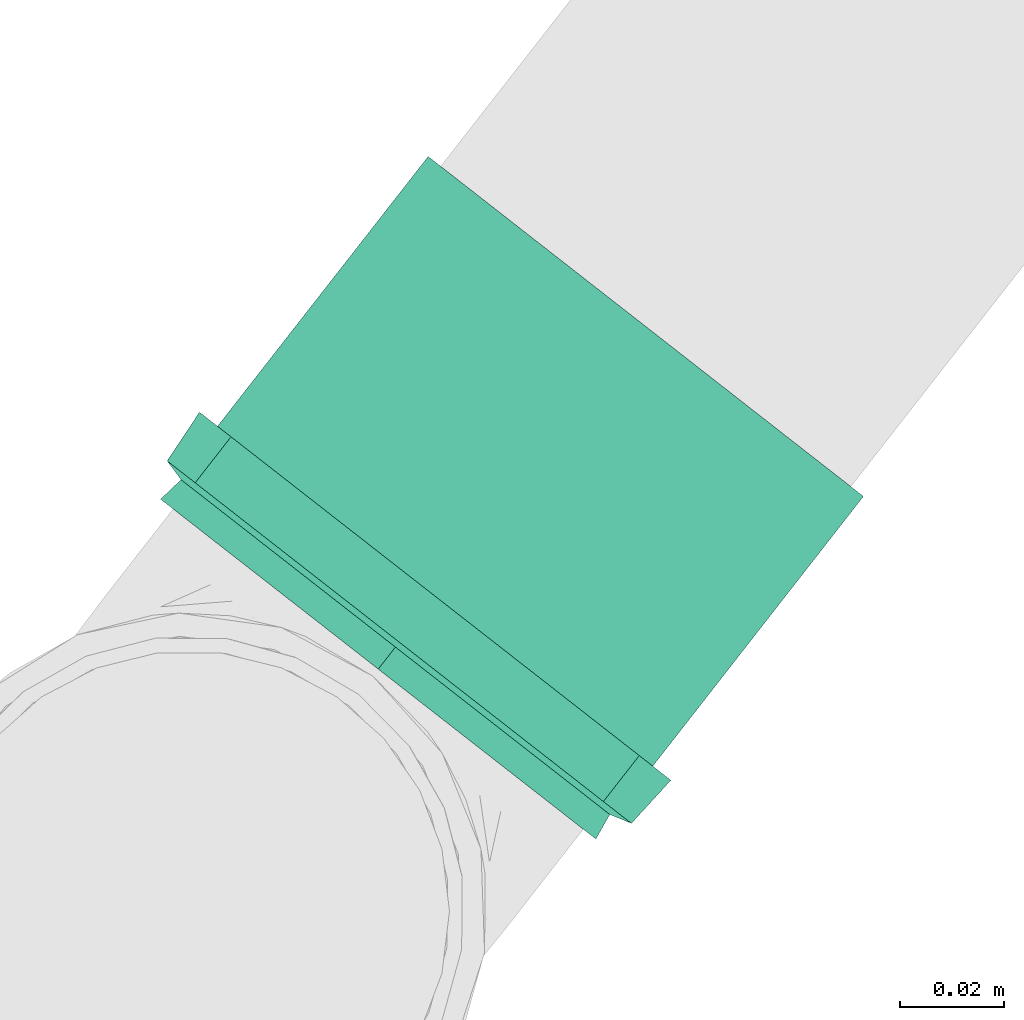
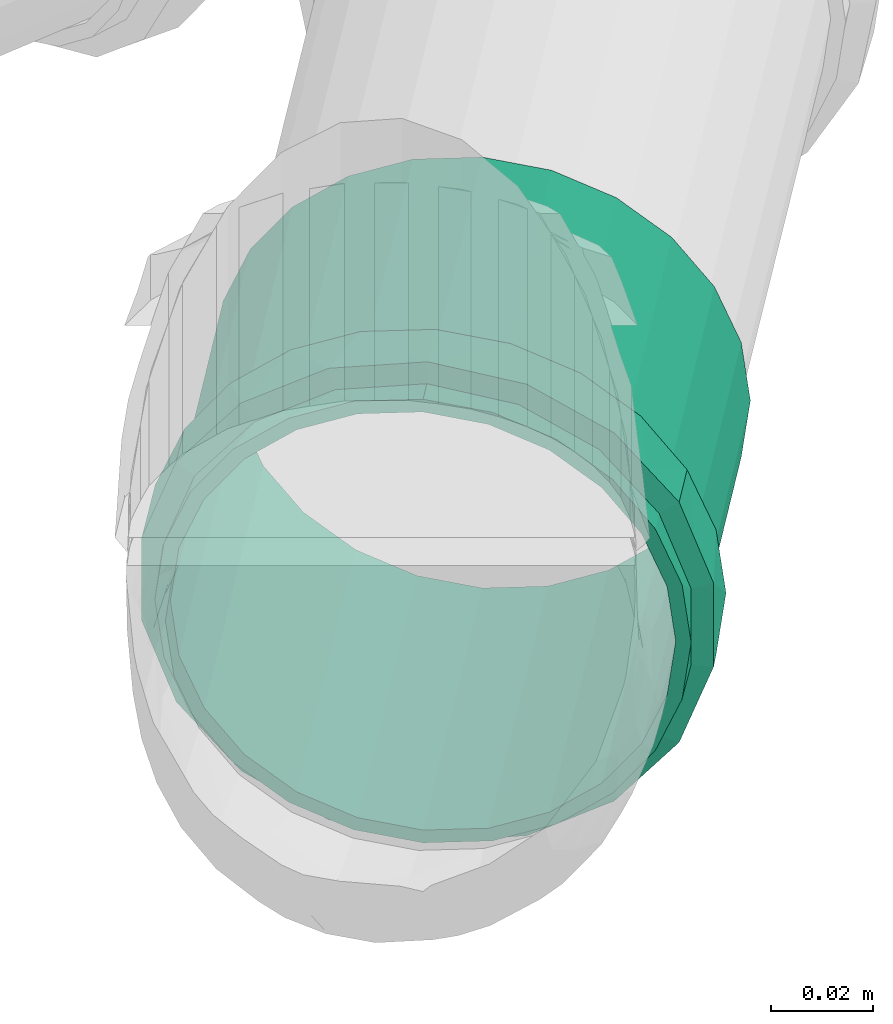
# One storey, part 19 of 97: 1 flow fitting.
"""IFC2X3 building model written with IfcOpenShell, lengths in centimetres."""

from ifc_helpers import new_model, entity, si_unit, converted_unit, derived_unit, direction, frame, origin, place, context, subcontext, project, spatial, faceted_brep, source, transform, mapped, material, type_object, type_shapes, element, save


model = new_model("IFC2X3")

# Units and contexts
model_context = context("Model", 3, precision=0.001, world=origin(), true_north=direction((6.12303176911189e-17, 1.0)))
body_context = subcontext(model_context, "Body", "Model", "MODEL_VIEW")
ifc_project = project(units=[si_unit("LENGTHUNIT", "METRE", prefix="CENTI"), si_unit("AREAUNIT", "SQUARE_METRE"), si_unit("VOLUMEUNIT", "CUBIC_METRE"), converted_unit("PLANEANGLEUNIT", "DEGREE", entity("IfcRatioMeasure", 0.0174532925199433), si_unit("PLANEANGLEUNIT", "RADIAN"), dimensions=[0, 0, 0, 0, 0, 0, 0]), si_unit("MASSUNIT", "GRAM", prefix="KILO"), derived_unit("MASSDENSITYUNIT", [(si_unit("MASSUNIT", "GRAM", prefix="KILO"), 1), (si_unit("LENGTHUNIT", "METRE"), -3)]), derived_unit("MOMENTOFINERTIAUNIT", [(si_unit("LENGTHUNIT", "METRE"), 4)]), si_unit("TIMEUNIT", "SECOND"), si_unit("FREQUENCYUNIT", "HERTZ"), si_unit("THERMODYNAMICTEMPERATUREUNIT", "DEGREE_CELSIUS"), derived_unit("THERMALTRANSMITTANCEUNIT", [(si_unit("MASSUNIT", "GRAM", prefix="KILO"), 1), (si_unit("THERMODYNAMICTEMPERATUREUNIT", "KELVIN"), -1), (si_unit("TIMEUNIT", "SECOND"), -3)]), derived_unit("VOLUMETRICFLOWRATEUNIT", [(si_unit("LENGTHUNIT", "METRE"), 3), (si_unit("TIMEUNIT", "SECOND"), -1)]), si_unit("ELECTRICCURRENTUNIT", "AMPERE"), si_unit("ELECTRICVOLTAGEUNIT", "VOLT"), si_unit("POWERUNIT", "WATT"), si_unit("FORCEUNIT", "NEWTON", prefix="KILO"), si_unit("ILLUMINANCEUNIT", "LUX"), si_unit("LUMINOUSFLUXUNIT", "LUMEN"), si_unit("LUMINOUSINTENSITYUNIT", "CANDELA"), derived_unit("USERDEFINED", [(si_unit("MASSUNIT", "GRAM", prefix="KILO"), -1), (si_unit("LENGTHUNIT", "METRE"), -2), (si_unit("TIMEUNIT", "SECOND"), 3), (si_unit("LUMINOUSFLUXUNIT", "LUMEN"), 1)]), derived_unit("LINEARVELOCITYUNIT", [(si_unit("LENGTHUNIT", "METRE"), 1), (si_unit("TIMEUNIT", "SECOND"), -1)]), si_unit("PRESSUREUNIT", "PASCAL"), derived_unit("USERDEFINED", [(si_unit("LENGTHUNIT", "METRE"), -2), (si_unit("MASSUNIT", "GRAM", prefix="KILO"), 1), (si_unit("TIMEUNIT", "SECOND"), -2)]), derived_unit("LINEARFORCEUNIT", [(si_unit("MASSUNIT", "GRAM", prefix="KILO"), 1), (si_unit("LENGTHUNIT", "METRE"), 1), (si_unit("TIMEUNIT", "SECOND"), -2), (si_unit("LENGTHUNIT", "METRE"), -1)]), derived_unit("PLANARFORCEUNIT", [(si_unit("MASSUNIT", "GRAM", prefix="KILO"), 1), (si_unit("LENGTHUNIT", "METRE"), 1), (si_unit("TIMEUNIT", "SECOND"), -2), (si_unit("LENGTHUNIT", "METRE"), -2)])], contexts=[model_context])

# Site, building, storey
site_placement = place(None, origin())
site = spatial("IfcSite", under=ifc_project, at=site_placement, Name="Default", CompositionType="ELEMENT")
building_placement = place(site_placement, origin())
building = spatial("IfcBuilding", under=site, at=building_placement, Name="HIDROSSANITÁRIO", CompositionType="ELEMENT")
storey_placement = place(building_placement, frame((0.0, 0.0, -260.0)))
storey = spatial("IfcBuildingStorey", under=building, at=storey_placement, Name="TÉRREO-HID", CompositionType="ELEMENT", Elevation=-260.0)

# Flow fitting
ifc_material = material(Name="PVC Branco")
pipe_fitting_type = type_object("IfcPipeFittingType", Name="Luva Simples para Conexão - Serie Normal - Esgoto - MEP - Tigre:Standard", PredefinedType="NOTDEFINED", material=ifc_material)
shared_shape = source(origin(), body_context, "Body", "Brep", [
    faceted_brep([(1.77700000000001, 2.8725, -4.9753159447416), (1.77700000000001, 4.06232845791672, -4.06232845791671), (1.77700000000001, 2.65249999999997, -4.59426476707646), (1.77700000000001, 1.37303503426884, -5.12423650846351), (1.77700000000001, 1.48691541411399, -5.5492438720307), (1.77700000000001, 3.75120147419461, -3.75120147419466), (1.77700000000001, 4.9753159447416, -2.8725), (1.77700000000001, 4.59426476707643, -2.65250000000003), (1.77700000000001, 5.1242365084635, -1.37303503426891), (1.77700000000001, 5.5492438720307, -1.48691541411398), (1.77700000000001, 5.305, 0.0), (1.77700000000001, 5.745, 0.0), (1.77700000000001, 5.1242365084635, 1.3730350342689), (1.77700000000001, 5.54924387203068, 1.48691541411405), (1.77700000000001, 4.59426476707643, 2.65250000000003), (1.77700000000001, 4.97531594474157, 2.87250000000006), (1.77700000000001, 3.75120147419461, 3.75120147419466), (1.77700000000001, 4.06232845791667, 4.06232845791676), (1.77700000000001, 2.65249999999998, 4.59426476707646), (1.77700000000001, 2.87249999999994, 4.97531594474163), (1.77700000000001, 1.37303503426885, 5.12423650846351), (1.77700000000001, 1.48691541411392, 5.54924387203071), (1.77700000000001, 0.0, 5.305), (1.77700000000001, 0.0, 5.745), (1.77700000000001, -1.37303503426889, 5.1242365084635), (1.77700000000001, -1.48691541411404, 5.54924387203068), (1.77700000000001, -2.65250000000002, 4.59426476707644), (1.77700000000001, -2.87250000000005, 4.97531594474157), (1.77700000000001, -3.75120147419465, 3.75120147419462), (1.77700000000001, -4.06232845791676, 4.06232845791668), (1.77700000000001, -4.59426476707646, 2.65249999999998), (1.77700000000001, -4.97531594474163, 2.87249999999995), (1.77700000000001, -5.54924387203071, 1.48691541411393), (1.77700000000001, -5.12423650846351, 1.37303503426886), (1.77700000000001, -5.745, 0.0), (1.77700000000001, -5.305, 0.0), (1.77700000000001, -5.54924387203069, -1.486915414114), (1.77700000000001, -5.12423650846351, -1.37303503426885), (1.77700000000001, -4.97531594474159, -2.87250000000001), (1.77700000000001, -4.59426476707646, -2.65249999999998), (1.77700000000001, -4.06232845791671, -4.06232845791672), (1.77700000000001, -3.75120147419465, -3.75120147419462), (1.77700000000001, -2.87249999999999, -4.97531594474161), (1.77700000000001, -2.65250000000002, -4.59426476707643), (1.77700000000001, -1.48691541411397, -5.5492438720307), (1.77700000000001, -1.3730350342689, -5.1242365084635), (1.77700000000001, 0.0, -5.745), (1.77700000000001, 0.0, -5.305), (0.657000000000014, -1.93463887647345, 5.31665771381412), (0.657000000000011, -4.4007619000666, 3.69300957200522), (0.657000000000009, -4.89962626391, 2.82901737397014), (0.657000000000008, -5.39849062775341, 1.96502517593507), (0.657000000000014, -2.87216972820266, 4.97550661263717), (0.657000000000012, -3.63646581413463, 4.3342580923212), (0.657000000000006, -5.5717453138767, 0.982512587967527), (0.657000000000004, -5.745, 0.0), (0.657000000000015, -0.997108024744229, 5.65780881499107), (0.657000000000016, 0.998234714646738, 5.65761013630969), (0.657000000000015, 0.0005633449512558, 5.65770947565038), (0.657000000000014, 3.63732887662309, 4.33353383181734), (0.657000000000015, 1.93569761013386, 5.31627233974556), (0.657000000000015, 2.87316050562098, 4.97493454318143), (0.65700000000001, 5.39888184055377, 1.96395006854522), (0.657000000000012, 4.90018954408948, 2.82804159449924), (0.657000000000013, 4.40149724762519, 3.69213312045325), (0.657000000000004, 5.745, 0.0), (0.656999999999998, 4.40149724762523, -3.6921331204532), (0.657, 4.90018954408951, -2.82804159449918), (0.657000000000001, 5.39888184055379, -1.96395006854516), (0.656999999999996, 2.87316050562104, -4.9749345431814), (0.656999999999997, 3.63732887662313, -4.3335338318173), (0.656999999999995, 1.93569761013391, -5.31627233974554), (0.656999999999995, 0.998234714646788, -5.65761013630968), (0.656999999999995, -0.997108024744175, -5.65780881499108), (0.656999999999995, 0.000563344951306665, -5.65770947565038), (0.656999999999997, -3.6364658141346, -4.33425809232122), (0.656999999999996, -2.87216972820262, -4.9755066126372), (0.656999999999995, -1.9346388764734, -5.31665771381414), (0.657000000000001, -5.39849062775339, -1.96502517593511), (0.657, -4.89962626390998, -2.82901737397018), (0.656999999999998, -4.40076190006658, -3.69300957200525), (0.657000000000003, -5.5717453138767, -0.982512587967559), (8.35200000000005, 2.6525, -4.59426476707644), (8.35200000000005, 3.75120147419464, -3.75120147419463), (8.35200000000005, 2.49999999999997, -4.33012701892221), (8.35200000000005, 1.29409522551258, -4.82962913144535), (8.35200000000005, 1.37303503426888, -5.1242365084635), (8.35200000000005, 3.53553390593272, -3.53553390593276), (8.35200000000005, 4.59426476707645, -2.6525), (8.35200000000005, 4.33012701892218, -2.50000000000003), (8.35200000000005, 4.82962913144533, -1.29409522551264), (8.35200000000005, 5.12423650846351, -1.37303503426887), (8.35200000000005, 5.0, 0.0), (8.35200000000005, 5.305, 0.0), (8.35200000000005, 4.82962913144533, 1.29409522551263), (8.35200000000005, 5.12423650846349, 1.37303503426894), (8.35200000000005, 4.33012701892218, 2.50000000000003), (8.35200000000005, 4.59426476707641, 2.65250000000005), (8.35200000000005, 3.53553390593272, 3.53553390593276), (8.35200000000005, 3.75120147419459, 3.75120147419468), (8.35200000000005, 2.49999999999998, 4.33012701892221), (8.35200000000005, 2.65249999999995, 4.59426476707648), (8.35200000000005, 1.29409522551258, 4.82962913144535), (8.35200000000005, 1.37303503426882, 5.12423650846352), (8.35200000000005, 0.0, 5.0), (8.35200000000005, 0.0, 5.305), (8.35200000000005, -1.29409522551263, 4.82962913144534), (8.35200000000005, -1.37303503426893, 5.12423650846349), (8.35200000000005, -2.50000000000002, 4.33012701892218), (8.35200000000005, -2.65250000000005, 4.59426476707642), (8.35200000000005, -3.53553390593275, 3.53553390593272), (8.35200000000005, -3.75120147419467, 3.7512014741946), (8.35200000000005, -4.3301270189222, 2.49999999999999), (8.35200000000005, -4.59426476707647, 2.65249999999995), (8.35200000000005, -5.12423650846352, 1.37303503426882), (8.35200000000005, -4.82962913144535, 1.29409522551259), (8.35200000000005, -5.305, 0.0), (8.35200000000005, -5.0, 0.0), (8.35200000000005, -5.1242365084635, -1.37303503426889), (8.35200000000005, -4.82962913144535, -1.29409522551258), (8.35200000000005, -4.59426476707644, -2.65250000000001), (8.35200000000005, -4.3301270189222, -2.49999999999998), (8.35200000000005, -3.75120147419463, -3.75120147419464), (8.35200000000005, -3.53553390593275, -3.53553390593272), (8.35200000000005, -2.65249999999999, -4.59426476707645), (8.35200000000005, -2.50000000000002, -4.33012701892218), (8.35200000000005, -1.37303503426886, -5.12423650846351), (8.35200000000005, -1.29409522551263, -4.82962913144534), (8.35200000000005, 0.0, -5.305), (8.35200000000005, 0.0, -5.0), (0.0, 2.49999999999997, -4.33012701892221), (0.0, 3.75120147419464, -3.75120147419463), (0.0, 2.6525, -4.59426476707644), (0.0, 1.29409522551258, -4.82962913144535), (0.0, 3.53553390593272, -3.53553390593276), (0.0, 4.59426476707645, -2.6525), (0.0, 4.33012701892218, -2.50000000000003), (0.0, 4.82962913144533, -1.29409522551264), (0.0, 5.12423650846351, -1.37303503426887), (0.0, 5.0, 0.0), (0.0, 5.305, 0.0), (0.0, 4.82962913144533, 1.29409522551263), (0.0, 5.12423650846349, 1.37303503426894), (0.0, 4.33012701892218, 2.50000000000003), (0.0, 4.59426476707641, 2.65250000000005), (0.0, 3.53553390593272, 3.53553390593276), (0.0, 3.75120147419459, 3.75120147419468), (0.0, 2.49999999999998, 4.33012701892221), (0.0, 2.65249999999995, 4.59426476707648), (0.0, 1.29409522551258, 4.82962913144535), (0.0, 1.37303503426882, 5.12423650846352), (0.0, 0.0, 5.0), (0.0, 0.0, 5.305), (0.0, -1.29409522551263, 4.82962913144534), (0.0, -1.37303503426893, 5.12423650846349), (0.0, -2.50000000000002, 4.33012701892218), (0.0, -2.65250000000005, 4.59426476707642), (0.0, -3.53553390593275, 3.53553390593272), (0.0, -3.75120147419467, 3.7512014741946), (0.0, -4.3301270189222, 2.49999999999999), (0.0, -4.59426476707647, 2.65249999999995), (0.0, -5.12423650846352, 1.37303503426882), (0.0, -4.82962913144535, 1.29409522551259), (0.0, -5.305, 0.0), (0.0, -5.0, 0.0), (0.0, -5.1242365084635, -1.37303503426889), (0.0, -4.82962913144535, -1.29409522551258), (0.0, -4.59426476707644, -2.65250000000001), (0.0, -4.3301270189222, -2.49999999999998), (0.0, -3.75120147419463, -3.75120147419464), (0.0, -3.53553390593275, -3.53553390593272), (0.0, -2.65249999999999, -4.59426476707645), (0.0, -2.50000000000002, -4.33012701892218), (0.0, -1.37303503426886, -5.12423650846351), (0.0, -1.29409522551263, -4.82962913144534), (0.0, 0.0, -5.305), (0.0, 0.0, -5.0), (0.0, 1.37303503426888, -5.1242365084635), (0.537000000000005, -5.305, 0.0), (0.537000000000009, -4.98507989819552, 1.81438788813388), (0.537000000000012, -4.06390540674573, 3.4099410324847), (0.537000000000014, -2.65258010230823, 4.59421851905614), (0.537000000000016, -0.921325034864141, 5.22438371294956), (0.537000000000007, 5.1449924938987, 0.907324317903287), (0.537000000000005, 5.305, 0.0), (0.537000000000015, 2.65233979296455, 4.59435725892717), (0.537000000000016, 0.921051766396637, 5.22443189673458), (0.537000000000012, 4.06372704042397, 3.41015359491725), (0.537000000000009, 4.9849849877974, 1.81464863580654), (0.537000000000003, 5.14499249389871, -0.907324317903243), (0.537000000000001, 4.98498498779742, -1.81464863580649), (0.536999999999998, 4.063727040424, -3.41015359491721), (0.536999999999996, 2.6523397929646, -4.59435725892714), (0.536999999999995, 0.921051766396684, -5.22443189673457), (0.536999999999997, -2.6525801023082, -4.59421851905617), (0.536999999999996, -0.921325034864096, -5.22438371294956), (0.536999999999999, -4.0639054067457, -3.40994103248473), (0.537000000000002, -4.98507989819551, -1.81438788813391), (5.0, -5.0, 0.0), (5.0, 5.0, 0.0)], [[[0, 1, 2]], [[0, 2, 3]], [[3, 4, 0]], [[2, 1, 5]], [[6, 5, 1]], [[5, 6, 7]], [[7, 6, 8]], [[9, 8, 6]], [[9, 10, 8]], [[10, 9, 11]], [[12, 10, 11]], [[11, 13, 12]], [[12, 13, 14]], [[15, 14, 13]], [[14, 15, 16]], [[16, 15, 17]], [[18, 16, 17]], [[17, 19, 18]], [[18, 19, 20]], [[21, 20, 19]], [[20, 21, 22]], [[22, 21, 23]], [[22, 23, 24]], [[24, 23, 25]], [[24, 25, 26]], [[27, 26, 25]], [[27, 28, 26]], [[28, 27, 29]], [[29, 30, 28]], [[31, 30, 29]], [[30, 31, 32]], [[32, 33, 30]], [[34, 33, 32]], [[34, 35, 33]], [[36, 35, 34]], [[36, 37, 35]], [[37, 36, 38]], [[38, 39, 37]], [[39, 38, 40]], [[39, 40, 41]], [[40, 42, 41]], [[41, 42, 43]], [[43, 42, 44]], [[44, 45, 43]], [[46, 45, 44]], [[4, 47, 46]], [[46, 47, 45]], [[4, 3, 47]], [[48, 27, 25]], [[31, 29, 49]], [[31, 49, 50, 51]], [[52, 53, 27]], [[32, 51, 54]], [[54, 55, 34]], [[54, 34, 32]], [[25, 56, 48]], [[49, 29, 53]], [[23, 57, 58, 56]], [[59, 19, 17]], [[27, 53, 29]], [[48, 52, 27]], [[31, 51, 32]], [[57, 23, 21]], [[60, 19, 61]], [[15, 62, 63, 64]], [[19, 60, 21]], [[15, 13, 62]], [[17, 64, 59]], [[57, 21, 60]], [[23, 56, 25]], [[15, 64, 17]], [[13, 65, 62]], [[13, 11, 65]], [[59, 61, 19]], [[65, 11, 9]], [[6, 1, 66]], [[6, 66, 67, 68]], [[69, 70, 0]], [[68, 65, 9]], [[71, 69, 0]], [[71, 0, 4]], [[4, 72, 71]], [[66, 1, 70]], [[46, 73, 74, 72]], [[75, 76, 42]], [[0, 70, 1]], [[75, 42, 40]], [[6, 68, 9]], [[73, 46, 44]], [[77, 42, 76]], [[38, 78, 79, 80]], [[42, 77, 44]], [[38, 36, 78]], [[40, 80, 75]], [[73, 44, 77]], [[46, 72, 4]], [[38, 80, 40]], [[81, 78, 36]], [[55, 81, 34]], [[34, 81, 36]], [[82, 83, 84]], [[82, 84, 85]], [[85, 86, 82]], [[84, 83, 87]], [[88, 87, 83]], [[87, 88, 89]], [[89, 88, 90]], [[91, 90, 88]], [[91, 92, 90]], [[92, 91, 93]], [[94, 92, 93]], [[93, 95, 94]], [[94, 95, 96]], [[97, 96, 95]], [[96, 97, 98]], [[98, 97, 99]], [[100, 98, 99]], [[99, 101, 100]], [[100, 101, 102]], [[103, 102, 101]], [[102, 103, 104]], [[104, 103, 105]], [[104, 105, 106]], [[106, 105, 107]], [[106, 107, 108]], [[109, 108, 107]], [[110, 108, 109]], [[110, 109, 111]], [[111, 112, 110]], [[113, 112, 111]], [[112, 113, 114]], [[114, 115, 112]], [[116, 115, 114]], [[116, 117, 115]], [[118, 117, 116]], [[118, 119, 117]], [[119, 118, 120]], [[120, 121, 119]], [[121, 120, 122]], [[121, 122, 123]], [[122, 124, 123]], [[125, 123, 124]], [[125, 124, 126]], [[126, 127, 125]], [[128, 127, 126]], [[86, 129, 128]], [[128, 129, 127]], [[86, 85, 129]], [[130, 131, 132]], [[133, 130, 132]], [[134, 131, 130]], [[131, 134, 135]], [[136, 135, 134]], [[137, 135, 136]], [[135, 137, 138]], [[137, 139, 138]], [[140, 138, 139]], [[140, 139, 141]], [[141, 142, 140]], [[143, 142, 141]], [[142, 143, 144]], [[145, 144, 143]], [[146, 144, 145]], [[146, 145, 147]], [[147, 148, 146]], [[149, 148, 147]], [[148, 149, 150]], [[151, 150, 149]], [[152, 150, 151]], [[153, 152, 151]], [[154, 152, 153]], [[155, 154, 153]], [[154, 155, 156]], [[156, 155, 157]], [[158, 156, 157]], [[157, 159, 158]], [[158, 159, 160]], [[161, 160, 159]], [[159, 162, 161]], [[161, 162, 163]], [[162, 164, 163]], [[163, 164, 165]], [[164, 166, 165]], [[167, 165, 166]], [[166, 168, 167]], [[169, 167, 168]], [[170, 169, 168]], [[170, 171, 169]], [[171, 170, 172]], [[173, 171, 172]], [[172, 174, 173]], [[173, 174, 175]], [[174, 176, 175]], [[176, 133, 177]], [[175, 176, 177]], [[132, 177, 133]], [[161, 178, 179]], [[158, 180, 181]], [[179, 180, 160]], [[181, 182, 154]], [[179, 160, 161]], [[161, 163, 178]], [[35, 116, 114, 33]], [[183, 184, 140]], [[181, 156, 158]], [[158, 160, 180]], [[181, 154, 156]], [[182, 152, 154]], [[183, 140, 142]], [[185, 150, 186]], [[187, 146, 185]], [[142, 188, 183]], [[187, 188, 144]], [[185, 148, 150]], [[150, 152, 186]], [[187, 144, 146]], [[146, 148, 185]], [[188, 142, 144]], [[186, 152, 182]], [[189, 190, 138]], [[131, 191, 192]], [[190, 191, 135]], [[192, 193, 177]], [[190, 135, 138]], [[184, 189, 140]], [[192, 132, 131]], [[131, 135, 191]], [[192, 177, 132]], [[193, 175, 177]], [[140, 189, 138]], [[194, 173, 195]], [[196, 169, 194]], [[165, 197, 178]], [[196, 197, 167]], [[165, 178, 163]], [[35, 37, 118, 116]], [[194, 171, 173]], [[173, 175, 195]], [[196, 167, 169]], [[169, 171, 194]], [[197, 165, 167]], [[195, 175, 193]], [[115, 117, 198, 164, 162]], [[155, 108, 110, 157]], [[110, 112, 159, 157]], [[112, 115, 162, 159]], [[106, 108, 155, 153]], [[153, 151, 104, 106]], [[102, 104, 151, 149]], [[102, 149, 147, 100]], [[141, 94, 96, 143]], [[96, 98, 145, 143]], [[98, 100, 147, 145]], [[92, 94, 141, 139, 199]], [[199, 139, 137, 90, 92]], [[87, 89, 136, 134]], [[134, 130, 84, 87]], [[89, 90, 137, 136]], [[85, 84, 130, 133]], [[133, 176, 129, 85]], [[127, 129, 176, 174]], [[127, 174, 172, 125]], [[166, 119, 121, 168]], [[121, 123, 170, 168]], [[123, 125, 172, 170]], [[117, 119, 166, 164, 198]], [[81, 178, 197]], [[190, 68, 67]], [[194, 75, 196]], [[193, 72, 74]], [[195, 77, 194]], [[79, 197, 196]], [[81, 55, 178]], [[192, 69, 71]], [[79, 78, 197]], [[194, 77, 76]], [[191, 66, 70]], [[80, 196, 75]], [[68, 190, 189]], [[74, 195, 193]], [[192, 71, 193]], [[190, 67, 191]], [[70, 192, 191]], [[65, 189, 184]], [[195, 73, 77]], [[193, 71, 72]], [[197, 78, 81]], [[191, 67, 66]], [[189, 65, 68]], [[196, 80, 79]], [[70, 69, 192]], [[194, 76, 75]], [[73, 195, 74]], [[65, 183, 62]], [[48, 56, 182]], [[58, 182, 56]], [[54, 51, 179]], [[59, 185, 61]], [[60, 186, 57]], [[53, 52, 181]], [[63, 187, 64]], [[58, 57, 186]], [[187, 63, 188]], [[186, 60, 185]], [[50, 49, 180]], [[185, 59, 187]], [[59, 64, 187]], [[182, 58, 186]], [[50, 179, 51]], [[54, 178, 55]], [[53, 180, 49]], [[63, 62, 188]], [[181, 48, 182]], [[183, 65, 184]], [[179, 50, 180]], [[178, 54, 179]], [[183, 188, 62]], [[180, 53, 181]], [[60, 61, 185]], [[48, 181, 52]], [[30, 33, 114, 113]], [[26, 28, 111, 109]], [[113, 111, 28, 30]], [[107, 24, 26, 109]], [[107, 105, 22, 24]], [[18, 20, 103, 101]], [[99, 16, 18, 101]], [[12, 14, 97, 95]], [[99, 97, 14, 16]], [[10, 12, 95, 93]], [[103, 20, 22, 105]], [[91, 8, 10, 93]], [[88, 7, 8, 91]], [[82, 86, 3, 2]], [[83, 5, 7, 88]], [[2, 5, 83, 82]], [[86, 128, 47, 3]], [[43, 45, 126, 124]], [[122, 41, 43, 124]], [[37, 39, 120, 118]], [[122, 120, 39, 41]], [[126, 45, 47, 128]]]),
])
type_shapes(pipe_fitting_type, [shared_shape])
flow_fitting_placement = place(storey_placement, frame((-1688.10663629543, 2934.76462587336, -34.5006496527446), z_axis=(0.788186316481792, -0.615436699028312, 0.0), x_axis=(0.615436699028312, 0.788186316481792, 0.0)))
element("IfcFlowFitting", 1, at=flow_fitting_placement, inside=storey, type_object=pipe_fitting_type, material=ifc_material, Name="Luva Simples para Conexão - Serie Normal - Esgoto - MEP - Tigre:Standard", ObjectType="Luva Simples para Conexão - Serie Normal - Esgoto - MEP - Tigre:Standard", context=body_context, shape_type="MappedRepresentation", body=[
    mapped(shared_shape, transform((0.0, 0.0, 0.0), scale=1.0)),
])

save(model, "model.ifc")
